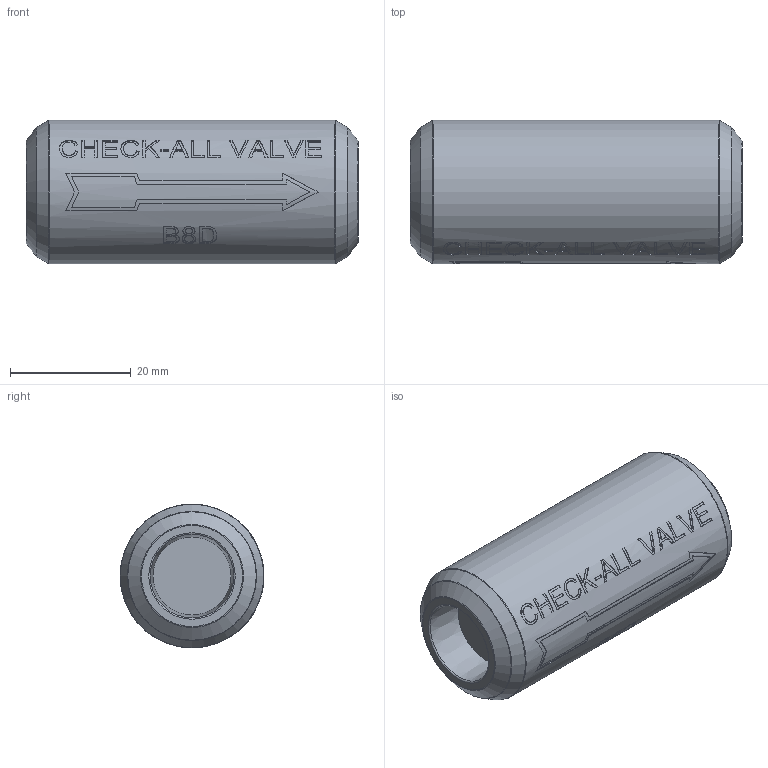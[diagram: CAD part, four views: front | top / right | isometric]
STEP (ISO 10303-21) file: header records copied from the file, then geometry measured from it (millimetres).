
FILE_DESCRIPTION(/* description */ ('Unknown'),/* implementation_level */ '2;1');
FILE_NAME(/* name */ 'B8D',/* time_stamp */ '2017-01-18T10:25:55-06:00',/* author */ ('Unknown'),/* organization */ ('Unknown'),/* preprocessor_version */ 'ST-DEVELOPER v16.7',/* originating_system */ 'DEX',/* authorisation */ $);
FILE_SCHEMA (('AUTOMOTIVE_DESIGN {1 0 10303 214 3 1 1}'));
Length unit declared in the file: millimetre
Products named in the file (1): B8D
Bounding box: 54.94 x 23.81 x 23.81 mm (x, y, z)
Volume: 21875.6 mm3; surface area: 5243.3 mm2
Topology: 1 solids, 1 shells, 198 faces, 500 edges, 332 vertices
Faces by surface type: plane 102, bspline 55, cylinder 28, torus 8, cone 5
Full cylindrical faces by diameter (mm): 13.868 x1, 23.812 x1
Entity records: 11383 total; most frequent: CARTESIAN_POINT 5607, ORIENTED_EDGE 950, DIRECTION 750, EDGE_CURVE 475, VERTEX_POINT 324, LINE 262, VECTOR 262, AXIS2_PLACEMENT_3D 244
